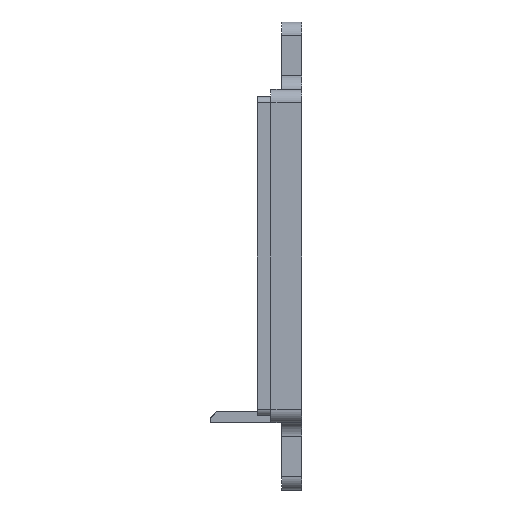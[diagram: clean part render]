
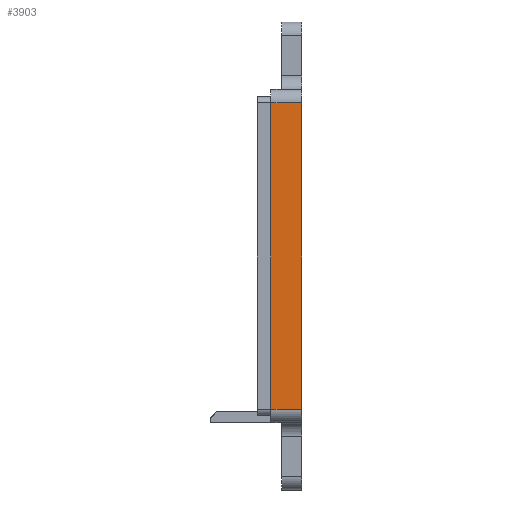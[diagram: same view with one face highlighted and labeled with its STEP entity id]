
A CAD part, left-side view. The second image highlights one B-rep face of the part: STEP entity #3903.
In plain terms, the highlighted planar face has unit normal (-1, 0, 0).
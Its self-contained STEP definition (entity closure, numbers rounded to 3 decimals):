
#39 = LINE ( 'NONE', #396, #1452 ) ;
#102 = VECTOR ( 'NONE', #1895, 1000. ) ;
#195 = FACE_OUTER_BOUND ( 'NONE', #3132, .T. ) ;
#396 = CARTESIAN_POINT ( 'NONE',  ( -55., -6.6, 22.75 ) ) ;
#583 = DIRECTION ( 'NONE',  ( 1., 0., 0. ) ) ;
#793 = VERTEX_POINT ( 'NONE', #2550 ) ;
#869 = VERTEX_POINT ( 'NONE', #4133 ) ;
#975 = CARTESIAN_POINT ( 'NONE',  ( -55., -2., 0. ) ) ;
#1154 = CARTESIAN_POINT ( 'NONE',  ( -55., -6.6, -22.75 ) ) ;
#1384 = EDGE_CURVE ( 'NONE', #4658, #4110, #4669, .T. ) ;
#1452 = VECTOR ( 'NONE', #1487, 1000. ) ;
#1487 = DIRECTION ( 'NONE',  ( 0., 1., 0. ) ) ;
#1519 = LINE ( 'NONE', #1154, #102 ) ;
#1617 = PLANE ( 'NONE',  #1856 ) ;
#1687 = DIRECTION ( 'NONE',  ( 0., 0., -1. ) ) ;
#1856 = AXIS2_PLACEMENT_3D ( 'NONE', #2410, #583, #1687 ) ;
#1895 = DIRECTION ( 'NONE',  ( 0., -1., 0. ) ) ;
#2285 = LINE ( 'NONE', #2959, #3766 ) ;
#2410 = CARTESIAN_POINT ( 'NONE',  ( -55., -6.6, 24.75 ) ) ;
#2550 = CARTESIAN_POINT ( 'NONE',  ( -55., -6.6, -22.75 ) ) ;
#2563 = ORIENTED_EDGE ( 'NONE', *, *, #3373, .T. ) ;
#2925 = CARTESIAN_POINT ( 'NONE',  ( -55., -2., -22.75 ) ) ;
#2959 = CARTESIAN_POINT ( 'NONE',  ( -55., -6.6, 24.75 ) ) ;
#3132 = EDGE_LOOP ( 'NONE', ( #4711, #4659, #4499, #2563 ) ) ;
#3243 = DIRECTION ( 'NONE',  ( 0., 0., 1. ) ) ;
#3373 = EDGE_CURVE ( 'NONE', #869, #4110, #39, .T. ) ;
#3388 = DIRECTION ( 'NONE',  ( 0., 0., -1. ) ) ;
#3421 = VECTOR ( 'NONE', #3243, 1000. ) ;
#3738 = EDGE_CURVE ( 'NONE', #869, #793, #2285, .T. ) ;
#3766 = VECTOR ( 'NONE', #3388, 1000. ) ;
#3903 = ADVANCED_FACE ( 'NONE', ( #195 ), #1617, .F. ) ;
#4081 = CARTESIAN_POINT ( 'NONE',  ( -55., -2., 22.75 ) ) ;
#4110 = VERTEX_POINT ( 'NONE', #4081 ) ;
#4133 = CARTESIAN_POINT ( 'NONE',  ( -55., -6.6, 22.75 ) ) ;
#4499 = ORIENTED_EDGE ( 'NONE', *, *, #3738, .F. ) ;
#4582 = EDGE_CURVE ( 'NONE', #4658, #793, #1519, .T. ) ;
#4658 = VERTEX_POINT ( 'NONE', #2925 ) ;
#4659 = ORIENTED_EDGE ( 'NONE', *, *, #4582, .T. ) ;
#4669 = LINE ( 'NONE', #975, #3421 ) ;
#4711 = ORIENTED_EDGE ( 'NONE', *, *, #1384, .F. ) ;
